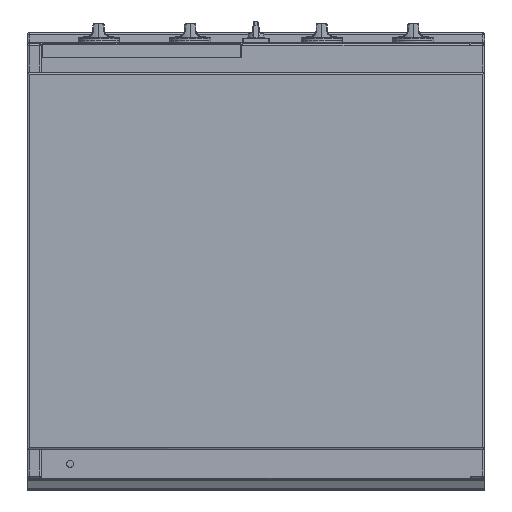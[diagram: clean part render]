
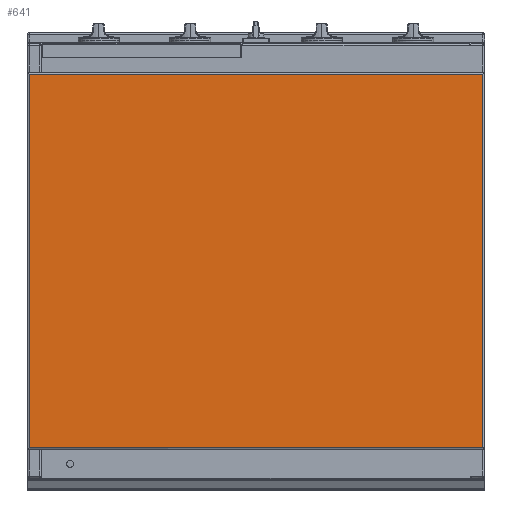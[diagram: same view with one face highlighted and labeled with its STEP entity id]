
A CAD part, front view. The second image highlights one B-rep face of the part: STEP entity #641.
In plain terms, the highlighted planar face has unit normal (0, -1, 0).
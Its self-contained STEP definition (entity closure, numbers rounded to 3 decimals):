
#641 = ADVANCED_FACE ( 'NONE', ( #27147 ), #27356, .F. ) ;
#2071 = VECTOR ( 'NONE', #13839, 1000. ) ;
#2595 = VECTOR ( 'NONE', #8977, 1000. ) ;
#2615 = LINE ( 'NONE', #25289, #2595 ) ;
#2674 = VERTEX_POINT ( 'NONE', #38907 ) ;
#4799 = DIRECTION ( 'NONE',  ( 1., 0., 0. ) ) ;
#6216 = CARTESIAN_POINT ( 'NONE',  ( 396.5, -900., -330. ) ) ;
#6387 = VECTOR ( 'NONE', #19125, 1000. ) ;
#7049 = CARTESIAN_POINT ( 'NONE',  ( -363., -900., -330. ) ) ;
#8977 = DIRECTION ( 'NONE',  ( 0., 0., -1. ) ) ;
#10424 = DIRECTION ( 'NONE',  ( -1., 0., 0. ) ) ;
#13839 = DIRECTION ( 'NONE',  ( -1., 0., 0. ) ) ;
#15936 = ORIENTED_EDGE ( 'NONE', *, *, #35579, .T. ) ;
#17217 = ORIENTED_EDGE ( 'NONE', *, *, #24977, .T. ) ;
#19125 = DIRECTION ( 'NONE',  ( 0., 0., 1. ) ) ;
#19363 = AXIS2_PLACEMENT_3D ( 'NONE', #7049, #30547, #10424 ) ;
#20182 = CARTESIAN_POINT ( 'NONE',  ( -363., -900., 326.5 ) ) ;
#20693 = ORIENTED_EDGE ( 'NONE', *, *, #38579, .T. ) ;
#21266 = EDGE_CURVE ( 'NONE', #32638, #30882, #29705, .T. ) ;
#22001 = VERTEX_POINT ( 'NONE', #23605 ) ;
#23605 = CARTESIAN_POINT ( 'NONE',  ( -396.5, -900., 326.5 ) ) ;
#24194 = EDGE_LOOP ( 'NONE', ( #15936, #20693, #38949, #17217 ) ) ;
#24977 = EDGE_CURVE ( 'NONE', #30882, #22001, #35656, .T. ) ;
#25289 = CARTESIAN_POINT ( 'NONE',  ( -396.5, -900., -330. ) ) ;
#26727 = CARTESIAN_POINT ( 'NONE',  ( 396.5, -900., 326.5 ) ) ;
#27147 = FACE_OUTER_BOUND ( 'NONE', #24194, .T. ) ;
#27356 = PLANE ( 'NONE',  #19363 ) ;
#29705 = LINE ( 'NONE', #6216, #6387 ) ;
#30547 = DIRECTION ( 'NONE',  ( 0., 1., 0. ) ) ;
#30882 = VERTEX_POINT ( 'NONE', #26727 ) ;
#31774 = VECTOR ( 'NONE', #4799, 1000. ) ;
#32638 = VERTEX_POINT ( 'NONE', #40123 ) ;
#33820 = LINE ( 'NONE', #40612, #31774 ) ;
#35579 = EDGE_CURVE ( 'NONE', #22001, #2674, #2615, .T. ) ;
#35656 = LINE ( 'NONE', #20182, #2071 ) ;
#38579 = EDGE_CURVE ( 'NONE', #2674, #32638, #33820, .T. ) ;
#38907 = CARTESIAN_POINT ( 'NONE',  ( -396.5, -900., -326.5 ) ) ;
#38949 = ORIENTED_EDGE ( 'NONE', *, *, #21266, .T. ) ;
#40123 = CARTESIAN_POINT ( 'NONE',  ( 396.5, -900., -326.5 ) ) ;
#40612 = CARTESIAN_POINT ( 'NONE',  ( -363., -900., -326.5 ) ) ;
